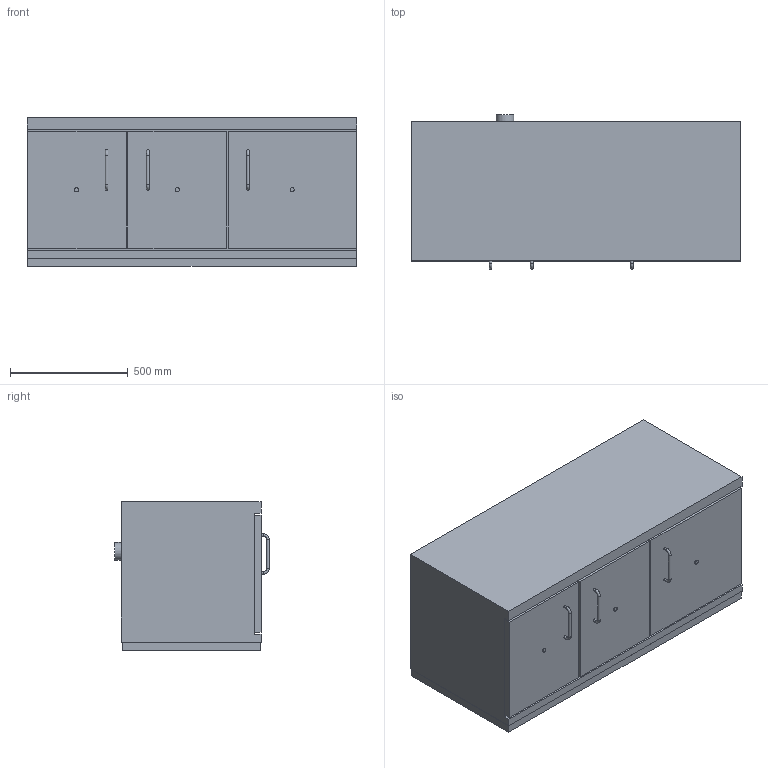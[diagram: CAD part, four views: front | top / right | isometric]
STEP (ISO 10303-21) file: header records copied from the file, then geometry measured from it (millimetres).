
FILE_DESCRIPTION(/* description */ ('Unknown'),/* implementation_level */ '2;1');
FILE_NAME(/* name */ '29-061467_VDK',/* time_stamp */ '2019-04-10T11:52:47+02:00',/* author */ ('Unknown'),/* organization */ ('Unknown'),/* preprocessor_version */ 'ST-DEVELOPER v16.7',/* originating_system */ 'DEX',/* authorisation */ $);
FILE_SCHEMA (('AUTOMOTIVE_DESIGN {1 0 10303 214 3 1 1}'));
Length unit declared in the file: millimetre
Products named in the file (1): 29-061467_VDK
Bounding box: 1400 x 656 x 631 mm (x, y, z)
Volume: 523103540.4 mm3; surface area: 4404922.7 mm2
Topology: 1 solids, 1 shells, 55 faces, 129 edges, 85 vertices
Faces by surface type: plane 35, cylinder 14, torus 6
Full cylindrical faces by diameter (mm): 12 x9, 18 x3, 75 x2
Entity records: 1809 total; most frequent: DIRECTION 240, CARTESIAN_POINT 232, ORIENTED_EDGE 200, EDGE_CURVE 100, EDGE_LOOP 90, FACE_BOUND 90, AXIS2_PLACEMENT_3D 84, VERTEX_POINT 76
